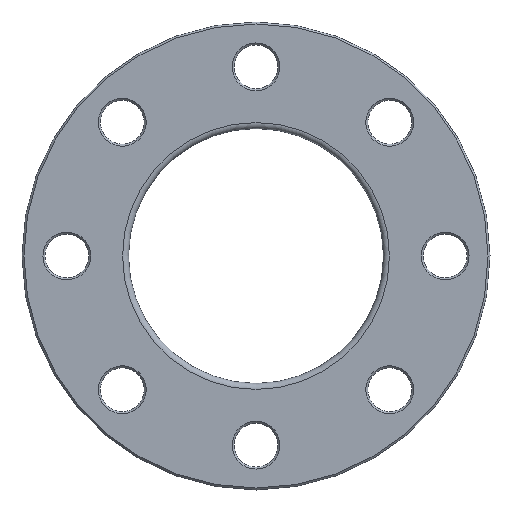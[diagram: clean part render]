
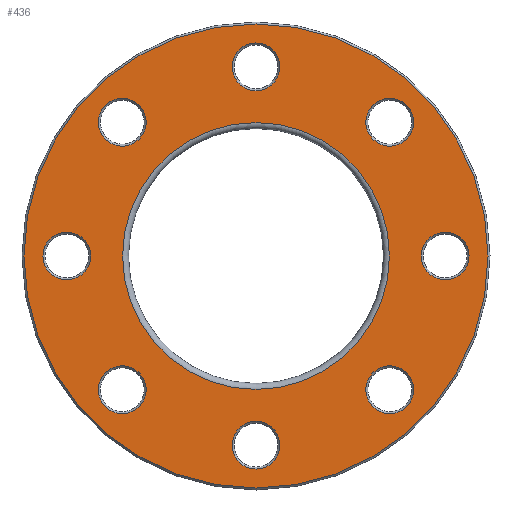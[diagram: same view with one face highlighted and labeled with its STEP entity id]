
A CAD part, front view. The second image highlights one B-rep face of the part: STEP entity #436.
In plain terms, the highlighted planar face has unit normal (0, -1, 0).
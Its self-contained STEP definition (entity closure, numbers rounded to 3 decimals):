
#23=PLANE('',#516);
#98=ORIENTED_EDGE('',*,*,#157,.T.);
#99=ORIENTED_EDGE('',*,*,#158,.T.);
#100=ORIENTED_EDGE('',*,*,#124,.T.);
#101=ORIENTED_EDGE('',*,*,#128,.T.);
#102=ORIENTED_EDGE('',*,*,#132,.T.);
#103=ORIENTED_EDGE('',*,*,#136,.T.);
#104=ORIENTED_EDGE('',*,*,#140,.T.);
#105=ORIENTED_EDGE('',*,*,#144,.T.);
#106=ORIENTED_EDGE('',*,*,#148,.T.);
#107=ORIENTED_EDGE('',*,*,#159,.T.);
#124=EDGE_CURVE('',#164,#164,#204,.T.);
#128=EDGE_CURVE('',#168,#168,#208,.T.);
#132=EDGE_CURVE('',#172,#172,#212,.T.);
#136=EDGE_CURVE('',#176,#176,#216,.T.);
#140=EDGE_CURVE('',#180,#180,#220,.T.);
#144=EDGE_CURVE('',#184,#184,#224,.T.);
#148=EDGE_CURVE('',#188,#188,#228,.T.);
#157=EDGE_CURVE('',#197,#197,#237,.F.);
#158=EDGE_CURVE('',#198,#198,#238,.T.);
#159=EDGE_CURVE('',#199,#199,#239,.T.);
#164=VERTEX_POINT('',#683);
#168=VERTEX_POINT('',#694);
#172=VERTEX_POINT('',#705);
#176=VERTEX_POINT('',#716);
#180=VERTEX_POINT('',#727);
#184=VERTEX_POINT('',#738);
#188=VERTEX_POINT('',#749);
#197=VERTEX_POINT('',#772);
#198=VERTEX_POINT('',#774);
#199=VERTEX_POINT('',#776);
#204=CIRCLE('',#461,12.);
#208=CIRCLE('',#468,12.);
#212=CIRCLE('',#475,12.);
#216=CIRCLE('',#482,12.);
#220=CIRCLE('',#489,12.);
#224=CIRCLE('',#496,12.);
#228=CIRCLE('',#503,12.);
#237=CIRCLE('',#517,116.5);
#238=CIRCLE('',#518,67.);
#239=CIRCLE('',#519,12.);
#298=EDGE_LOOP('',(#98));
#299=EDGE_LOOP('',(#99));
#300=EDGE_LOOP('',(#100));
#301=EDGE_LOOP('',(#101));
#302=EDGE_LOOP('',(#102));
#303=EDGE_LOOP('',(#103));
#304=EDGE_LOOP('',(#104));
#305=EDGE_LOOP('',(#105));
#306=EDGE_LOOP('',(#106));
#307=EDGE_LOOP('',(#107));
#378=FACE_BOUND('',#298,.T.);
#379=FACE_BOUND('',#299,.T.);
#380=FACE_BOUND('',#300,.T.);
#381=FACE_BOUND('',#301,.T.);
#382=FACE_BOUND('',#302,.T.);
#383=FACE_BOUND('',#303,.T.);
#384=FACE_BOUND('',#304,.T.);
#385=FACE_BOUND('',#305,.T.);
#386=FACE_BOUND('',#306,.T.);
#387=FACE_BOUND('',#307,.T.);
#436=ADVANCED_FACE('',(#378,#379,#380,#381,#382,#383,#384,#385,#386,#387),
#23,.F.);
#461=AXIS2_PLACEMENT_3D('',#682,#539,#540);
#468=AXIS2_PLACEMENT_3D('',#693,#553,#554);
#475=AXIS2_PLACEMENT_3D('',#704,#567,#568);
#482=AXIS2_PLACEMENT_3D('',#715,#581,#582);
#489=AXIS2_PLACEMENT_3D('',#726,#595,#596);
#496=AXIS2_PLACEMENT_3D('',#737,#609,#610);
#503=AXIS2_PLACEMENT_3D('',#748,#623,#624);
#516=AXIS2_PLACEMENT_3D('',#770,#649,#650);
#517=AXIS2_PLACEMENT_3D('',#771,#651,#652);
#518=AXIS2_PLACEMENT_3D('',#773,#653,#654);
#519=AXIS2_PLACEMENT_3D('',#775,#655,#656);
#539=DIRECTION('',(0.,1.,0.));
#540=DIRECTION('',(0.707,0.,0.707));
#553=DIRECTION('',(0.,1.,0.));
#554=DIRECTION('',(0.,0.,1.));
#567=DIRECTION('',(0.,1.,0.));
#568=DIRECTION('',(-0.707,0.,0.707));
#581=DIRECTION('',(0.,1.,0.));
#582=DIRECTION('',(-1.,0.,0.));
#595=DIRECTION('',(0.,1.,0.));
#596=DIRECTION('',(-0.707,0.,-0.707));
#609=DIRECTION('',(0.,1.,0.));
#610=DIRECTION('',(0.,0.,-1.));
#623=DIRECTION('',(0.,1.,0.));
#624=DIRECTION('',(0.707,0.,-0.707));
#649=DIRECTION('',(0.,1.,0.));
#650=DIRECTION('',(0.,0.,1.));
#651=DIRECTION('',(0.,1.,0.));
#652=DIRECTION('',(0.,0.,1.));
#653=DIRECTION('',(0.,1.,0.));
#654=DIRECTION('',(0.,0.,1.));
#655=DIRECTION('',(0.,1.,0.));
#656=DIRECTION('',(1.,0.,0.));
#682=CARTESIAN_POINT('',(-67.175,0.,67.175));
#683=CARTESIAN_POINT('',(-58.69,0.,75.66));
#693=CARTESIAN_POINT('',(-95.,0.,0.));
#694=CARTESIAN_POINT('',(-95.,0.,12.));
#704=CARTESIAN_POINT('',(-67.175,0.,-67.175));
#705=CARTESIAN_POINT('',(-75.66,0.,-58.69));
#715=CARTESIAN_POINT('',(0.,0.,-95.));
#716=CARTESIAN_POINT('',(-12.,0.,-95.));
#726=CARTESIAN_POINT('',(67.175,0.,-67.175));
#727=CARTESIAN_POINT('',(58.69,0.,-75.66));
#737=CARTESIAN_POINT('',(95.,0.,0.));
#738=CARTESIAN_POINT('',(95.,0.,-12.));
#748=CARTESIAN_POINT('',(67.175,0.,67.175));
#749=CARTESIAN_POINT('',(75.66,0.,58.69));
#770=CARTESIAN_POINT('',(0.,0.,0.));
#771=CARTESIAN_POINT('',(0.,0.,0.));
#772=CARTESIAN_POINT('',(0.,0.,116.5));
#773=CARTESIAN_POINT('',(0.,0.,0.));
#774=CARTESIAN_POINT('',(0.,0.,67.));
#775=CARTESIAN_POINT('',(0.,0.,95.));
#776=CARTESIAN_POINT('',(12.,0.,95.));
